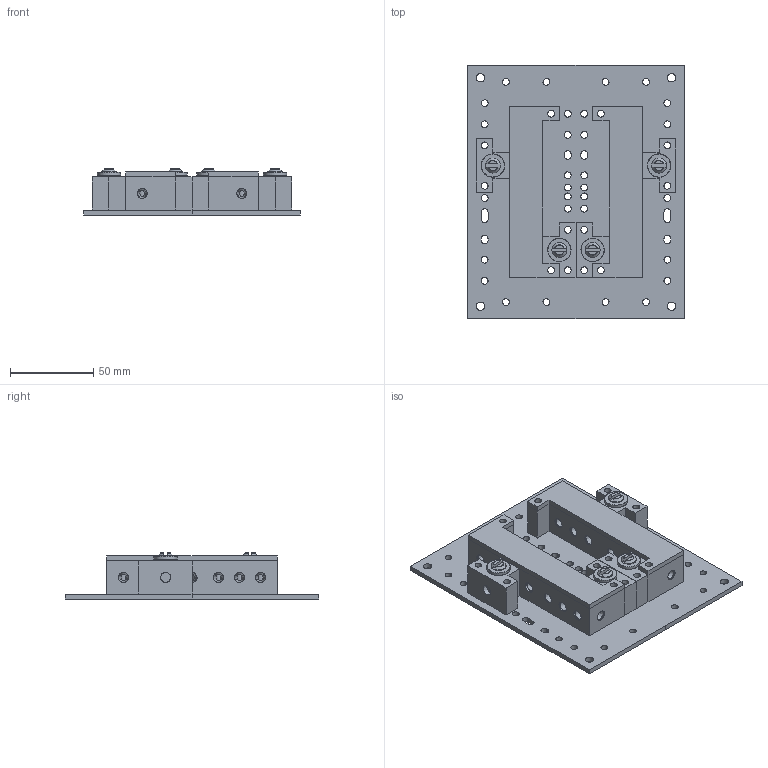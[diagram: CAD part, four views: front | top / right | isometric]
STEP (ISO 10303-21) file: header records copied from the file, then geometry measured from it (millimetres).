
FILE_DESCRIPTION ((), '1');
FILE_NAME ('C:\Users\tprototype\Desktop\TeslaGen Project\TeslaGen-v1 CAD Package\CNC Parts\Spark Gap\Spark-Gap.stp', '2018-01-16T00:45:59', ('Unknown'), ('Unknown'), 'HarmonyWare STEP v1.7.11', 'HarmonyWare Translators', '');
FILE_SCHEMA (('CONFIG_CONTROL_DESIGN'));
Length unit declared in the file: millimetre
Products named in the file (45): product-name
Bounding box: 130 x 152.55 x 27.75 mm (x, y, z)
Volume: 189987.5 mm3; surface area: 117947.6 mm2
Topology: 44 solids, 44 shells, 1201 faces, 3336 edges, 2190 vertices
Faces by surface type: bspline 1201
Entity records: 176572 total; most frequent: CARTESIAN_POINT 153438, ORIENTED_EDGE 6670, EDGE_CURVE 3335, VERTEX_POINT 2188, B_SPLINE_CURVE_WITH_KNOTS 1943, EDGE_LOOP 1391, FACE_OUTER_BOUND 1201, ADVANCED_FACE 1201
